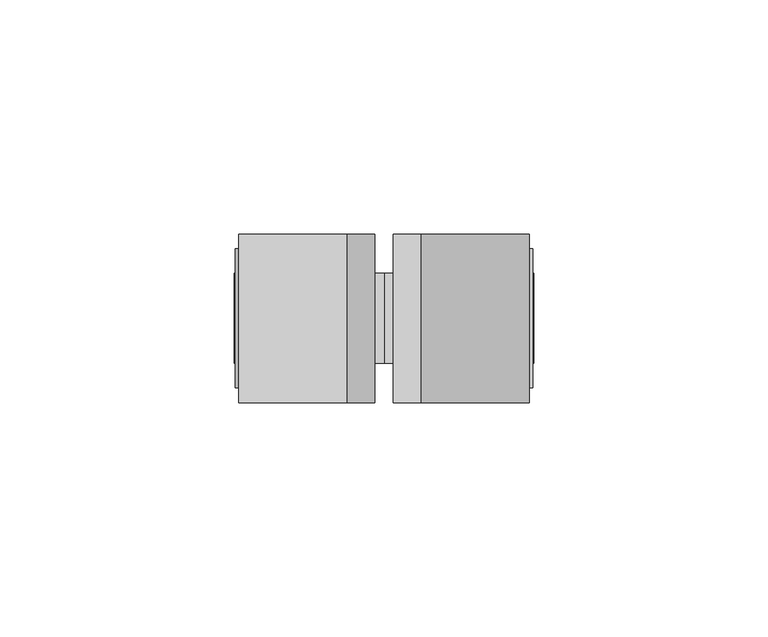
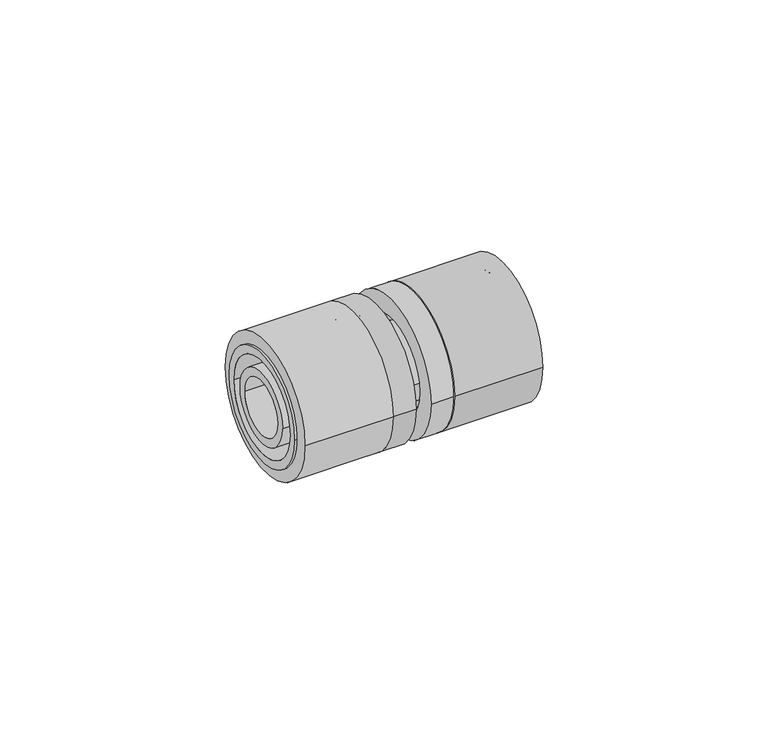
"""IFC4 building model written with IfcOpenShell, lengths in millimetres: pipe fitting geometry, FASTLOC_Coupling equal EX+ : FSL C EQ EX+ AT."""

from ifc_helpers import new_model, si_unit, point, frame, origin, origin_2d, place, context, project, spatial, polyline, circle_curve, trimmed, segment, composite_curve, outline, extrude, source, transform, mapped, element, save
from ifc_brep_helpers import plane_surface, cylinder_surface, revolved_surface, advanced_brep


def pipe_fitting_5e3c5755(model_context):
    return source(origin(), model_context, "Body", "SolidModel", [
        extrude(outline(composite_curve([segment(trimmed(circle_curve(origin_2d(), 18.0), [point((-18.0, 0.0))], [point((18.0, 0.0))], False, "CARTESIAN"), True, "CONTINUOUS"), segment(trimmed(circle_curve(origin_2d(), 18.0), [point((18.0, 0.0))], [point((-18.0, 0.0))], False, "CARTESIAN"), True, "CONTINUOUS")], self_intersect=False), holes=[composite_curve([segment(trimmed(circle_curve(origin_2d(), 13.5), [point((-13.5, 0.0))], [point((13.5, 0.0))], True, "CARTESIAN"), True, "CONTINUOUS"), segment(trimmed(circle_curve(origin_2d(), 13.5), [point((13.5, 0.0))], [point((-13.5, 0.0))], True, "CARTESIAN"), True, "CONTINUOUS")], self_intersect=False)]), frame((8.0, 0.0, 0.0), z_axis=(1.0, 0.0, 0.0), x_axis=(0.0, 1.0, 0.0)), (0.0, 0.0, 1.0), 23.0),
        advanced_brep(
        [(8.0, 18.0, 0.0), (8.0, -18.0, 0.0), (2.0, -18.0, 0.0), (2.0, 18.0, 0.0), (31.8, 14.85, 0.0), (31.8, -14.85, 0.0), (8.0, -14.85, 0.0), (8.0, 14.85, 0.0), (2.0, 12.65, 0.0), (2.0, -12.65, 0.0), (31.8, -12.65, 0.0), (31.8, 12.65, 0.0)],
        [
            (0, 1, circle_curve(frame((8.0, 0.0, 0.0), z_axis=(-1.0, 0.0, 0.0), x_axis=(0.0, -1.0, 0.0)), 18.0)),
            (1, 2),
            (2, 3, circle_curve(frame((2.0, 0.0, 0.0), z_axis=(1.0, 0.0, 0.0), x_axis=(0.0, -1.0, 0.0)), 18.0)),
            (3, 0),
            (4, 5, circle_curve(frame((31.8, 0.0, 0.0), z_axis=(-1.0, 0.0, 0.0), x_axis=(0.0, -1.0, 0.0)), 14.85)),
            (5, 6),
            (6, 7, circle_curve(frame((8.0, 0.0, 0.0), z_axis=(1.0, 0.0, 0.0), x_axis=(0.0, -1.0, 0.0)), 14.85)),
            (7, 4),
            (8, 9, circle_curve(frame((2.0, 0.0, 0.0), z_axis=(-1.0, 0.0, 0.0), x_axis=(0.0, -1.0, 0.0)), 12.65)),
            (9, 10),
            (10, 11, circle_curve(frame((31.8, 0.0, 0.0), z_axis=(1.0, 0.0, 0.0), x_axis=(0.0, -1.0, 0.0)), 12.65)),
            (11, 8),
            (1, 0, circle_curve(frame((8.0, 0.0, 0.0), z_axis=(-1.0, 0.0, 0.0), x_axis=(0.0, 1.0, 0.0)), 18.0)),
            (3, 2, circle_curve(frame((2.0, 0.0, 0.0), z_axis=(1.0, 0.0, 0.0), x_axis=(0.0, 1.0, 0.0)), 18.0)),
            (6, 7, circle_curve(frame((8.0, 0.0, 0.0), z_axis=(-1.0, 0.0, 0.0), x_axis=(0.0, 1.0, 0.0)), 14.85)),
            (5, 4, circle_curve(frame((31.8, 0.0, 0.0), z_axis=(-1.0, 0.0, 0.0), x_axis=(0.0, 1.0, 0.0)), 14.85)),
            (10, 11, circle_curve(frame((31.8, 0.0, 0.0), z_axis=(-1.0, 0.0, 0.0), x_axis=(0.0, 1.0, 0.0)), 12.65)),
            (9, 8, circle_curve(frame((2.0, 0.0, 0.0), z_axis=(-1.0, 0.0, 0.0), x_axis=(0.0, 1.0, 0.0)), 12.65)),
        ],
        [
            cylinder_surface(frame((2.0, 0.0, 0.0), z_axis=(1.0, 0.0, 0.0), x_axis=(0.0, -1.0, 0.0)), 18.0),
            cylinder_surface(frame((2.0, 0.0, 0.0), z_axis=(1.0, 0.0, 0.0), x_axis=(0.0, -1.0, 0.0)), 14.85),
            revolved_surface(polyline([(31.8, -12.65, 0.0), (2.0, -12.65, 0.0)]), (2.0, 0.0, 0.0), (1.0, 0.0, 0.0)),
            cylinder_surface(frame((2.0, 0.0, 0.0), z_axis=(1.0, 0.0, 0.0), x_axis=(0.0, 1.0, 0.0)), 18.0),
            plane_surface(frame((8.0, 0.0, 0.0), z_axis=(1.0, 0.0, 0.0), x_axis=(0.0, 1.0, 0.0))),
            cylinder_surface(frame((2.0, 0.0, 0.0), z_axis=(1.0, 0.0, 0.0), x_axis=(0.0, 1.0, 0.0)), 14.85),
            plane_surface(frame((31.8, 0.0, 0.0), z_axis=(1.0, 0.0, 0.0), x_axis=(0.0, 1.0, 0.0))),
            revolved_surface(polyline([(31.8, 12.65, 0.0), (2.0, 12.65, 0.0)]), (2.0, 0.0, 0.0), (1.0, 0.0, 0.0)),
            plane_surface(frame((2.0, 0.0, 0.0), z_axis=(-1.0, 0.0, 0.0), x_axis=(0.0, 1.0, 0.0))),
        ],
        [
            (0, [[1, 2, 3, 4]]),
            (1, [[5, 6, 7, 8]]),
            (2, [[9, 10, 11, 12]]),
            (3, [[13, -4, 14, -2]]),
            (4, [[-13, -1], [15, -7]]),
            (5, [[16, -8, -15, -6]]),
            (6, [[-16, -5], [17, -11]]),
            (7, [[18, -12, -17, -10]]),
            (8, [[-14, -3], [-18, -9]]),
        ],
    ),
        extrude(outline(composite_curve([segment(trimmed(circle_curve(origin_2d(), 18.0), [point((18.0, 0.0))], [point((-18.0, 0.0))], False, "CARTESIAN"), True, "CONTINUOUS"), segment(trimmed(circle_curve(origin_2d(), 18.0), [point((-18.0, 0.0))], [point((18.0, 0.0))], False, "CARTESIAN"), True, "CONTINUOUS")], self_intersect=False), holes=[composite_curve([segment(trimmed(circle_curve(origin_2d(), 13.5), [point((13.5, 0.0))], [point((-13.5, 0.0))], True, "CARTESIAN"), True, "CONTINUOUS"), segment(trimmed(circle_curve(origin_2d(), 13.5), [point((-13.5, 0.0))], [point((13.5, 0.0))], True, "CARTESIAN"), True, "CONTINUOUS")], self_intersect=False)]), frame((-31.0, 0.0, 0.0), z_axis=(1.0, 0.0, 0.0), x_axis=(0.0, 1.0, 0.0)), (0.0, 0.0, 1.0), 23.0),
        advanced_brep(
        [(-8.0, -18.0, 0.0), (-8.0, 18.0, 0.0), (-2.0, 18.0, 0.0), (-2.0, -18.0, 0.0), (-31.8, -14.85, 0.0), (-31.8, 14.85, 0.0), (-8.0, 14.85, 0.0), (-8.0, -14.85, 0.0), (-2.0, -12.65, 0.0), (-2.0, 12.65, 0.0), (-31.8, 12.65, 0.0), (-31.8, -12.65, 0.0)],
        [
            (0, 1, circle_curve(frame((-8.0, 0.0, 0.0), z_axis=(1.0, 0.0, 0.0), x_axis=(0.0, 1.0, 0.0)), 18.0)),
            (1, 2),
            (2, 3, circle_curve(frame((-2.0, 0.0, 0.0), z_axis=(-1.0, 0.0, 0.0), x_axis=(0.0, 1.0, 0.0)), 18.0)),
            (3, 0),
            (4, 5, circle_curve(frame((-31.8, 0.0, 0.0), z_axis=(1.0, 0.0, 0.0), x_axis=(0.0, 1.0, 0.0)), 14.85)),
            (5, 6),
            (6, 7, circle_curve(frame((-8.0, 0.0, 0.0), z_axis=(-1.0, 0.0, 0.0), x_axis=(0.0, 1.0, 0.0)), 14.85)),
            (7, 4),
            (8, 9, circle_curve(frame((-2.0, 0.0, 0.0), z_axis=(1.0, 0.0, 0.0), x_axis=(0.0, 1.0, 0.0)), 12.65)),
            (9, 10),
            (10, 11, circle_curve(frame((-31.8, 0.0, 0.0), z_axis=(-1.0, 0.0, 0.0), x_axis=(0.0, 1.0, 0.0)), 12.65)),
            (11, 8),
            (1, 0, circle_curve(frame((-8.0, 0.0, 0.0), z_axis=(1.0, 0.0, 0.0), x_axis=(0.0, -1.0, 0.0)), 18.0)),
            (3, 2, circle_curve(frame((-2.0, 0.0, 0.0), z_axis=(-1.0, 0.0, 0.0), x_axis=(0.0, -1.0, 0.0)), 18.0)),
            (6, 7, circle_curve(frame((-8.0, 0.0, 0.0), z_axis=(1.0, 0.0, 0.0), x_axis=(0.0, -1.0, 0.0)), 14.85)),
            (5, 4, circle_curve(frame((-31.8, 0.0, 0.0), z_axis=(1.0, 0.0, 0.0), x_axis=(0.0, -1.0, 0.0)), 14.85)),
            (10, 11, circle_curve(frame((-31.8, 0.0, 0.0), z_axis=(1.0, 0.0, 0.0), x_axis=(0.0, -1.0, 0.0)), 12.65)),
            (9, 8, circle_curve(frame((-2.0, 0.0, 0.0), z_axis=(1.0, 0.0, 0.0), x_axis=(0.0, -1.0, 0.0)), 12.65)),
        ],
        [
            cylinder_surface(frame((-2.0, 0.0, 0.0), z_axis=(-1.0, 0.0, 0.0), x_axis=(0.0, 1.0, 0.0)), 18.0),
            cylinder_surface(frame((-2.0, 0.0, 0.0), z_axis=(-1.0, 0.0, 0.0), x_axis=(0.0, 1.0, 0.0)), 14.85),
            revolved_surface(polyline([(-31.8, 12.65, 0.0), (-2.0, 12.65, 0.0)]), (-2.0, 0.0, 0.0), (-1.0, 0.0, 0.0)),
            cylinder_surface(frame((-2.0, 0.0, 0.0), z_axis=(-1.0, 0.0, 0.0), x_axis=(0.0, -1.0, 0.0)), 18.0),
            plane_surface(frame((-8.0, 0.0, 0.0), z_axis=(-1.0, 0.0, 0.0), x_axis=(0.0, -1.0, 0.0))),
            cylinder_surface(frame((-2.0, 0.0, 0.0), z_axis=(-1.0, 0.0, 0.0), x_axis=(0.0, -1.0, 0.0)), 14.85),
            plane_surface(frame((-31.8, 0.0, 0.0), z_axis=(-1.0, 0.0, 0.0), x_axis=(0.0, -1.0, 0.0))),
            revolved_surface(polyline([(-31.8, -12.65, 0.0), (-2.0, -12.65, 0.0)]), (-2.0, 0.0, 0.0), (-1.0, 0.0, 0.0)),
            plane_surface(frame((-2.0, 0.0, 0.0), z_axis=(1.0, 0.0, 0.0), x_axis=(0.0, -1.0, 0.0))),
        ],
        [
            (0, [[1, 2, 3, 4]]),
            (1, [[5, 6, 7, 8]]),
            (2, [[9, 10, 11, 12]]),
            (3, [[13, -4, 14, -2]]),
            (4, [[-13, -1], [15, -7]]),
            (5, [[16, -8, -15, -6]]),
            (6, [[-16, -5], [17, -11]]),
            (7, [[18, -12, -17, -10]]),
            (8, [[-14, -3], [-18, -9]]),
        ],
    ),
        advanced_brep(
        [(8.0, 11.1, 0.0), (8.0, -11.1, 0.0), (5.2, -11.1, 0.0), (5.2, 11.1, 0.0), (32.0, 9.6, 0.0), (32.0, -9.6, 0.0), (8.0, -9.6, 0.0), (8.0, 9.6, 0.0), (-32.0, 7.35, 0.0), (-32.0, -7.35, 0.0), (32.0, -7.35, 0.0), (32.0, 7.35, 0.0), (-8.0, 9.6, 0.0), (-8.0, -9.6, 0.0), (-32.0, -9.6, 0.0), (-32.0, 9.6, 0.0), (-5.2, 11.1, 0.0), (-5.2, -11.1, 0.0), (-8.0, -11.1, 0.0), (-8.0, 11.1, 0.0), (0.0, 9.6, 0.0), (0.0, -9.6, 0.0), (-5.2, -9.6, 0.0), (-5.2, 9.6, 0.0), (5.2, 9.6, 0.0), (5.2, -9.6, 0.0)],
        [
            (0, 1, circle_curve(frame((8.0, 0.0, 0.0), z_axis=(-1.0, 0.0, 0.0), x_axis=(0.0, -1.0, 0.0)), 11.1)),
            (1, 2),
            (2, 3, circle_curve(frame((5.2, 0.0, 0.0), z_axis=(1.0, 0.0, 0.0), x_axis=(0.0, -1.0, 0.0)), 11.1)),
            (3, 0),
            (4, 5, circle_curve(frame((32.0, 0.0, 0.0), z_axis=(-1.0, 0.0, 0.0), x_axis=(0.0, -1.0, 0.0)), 9.6)),
            (5, 6),
            (6, 7, circle_curve(frame((8.0, 0.0, 0.0), z_axis=(1.0, 0.0, 0.0), x_axis=(0.0, -1.0, 0.0)), 9.6)),
            (7, 4),
            (8, 9, circle_curve(frame((-32.0, 0.0, 0.0), z_axis=(-1.0, 0.0, 0.0), x_axis=(0.0, -1.0, 0.0)), 7.35)),
            (9, 10),
            (10, 11, circle_curve(frame((32.0, 0.0, 0.0), z_axis=(1.0, 0.0, 0.0), x_axis=(0.0, -1.0, 0.0)), 7.35)),
            (11, 8),
            (12, 13, circle_curve(frame((-8.0, 0.0, 0.0), z_axis=(-1.0, 0.0, 0.0), x_axis=(0.0, -1.0, 0.0)), 9.6)),
            (13, 14),
            (14, 15, circle_curve(frame((-32.0, 0.0, 0.0), z_axis=(1.0, 0.0, 0.0), x_axis=(0.0, -1.0, 0.0)), 9.6)),
            (15, 12),
            (16, 17, circle_curve(frame((-5.2, 0.0, 0.0), z_axis=(-1.0, 0.0, 0.0), x_axis=(0.0, -1.0, 0.0)), 11.1)),
            (17, 18),
            (18, 19, circle_curve(frame((-8.0, 0.0, 0.0), z_axis=(1.0, 0.0, 0.0), x_axis=(0.0, -1.0, 0.0)), 11.1)),
            (19, 16),
            (20, 21, circle_curve(frame((0.0, 0.0, 0.0), z_axis=(-1.0, 0.0, 0.0), x_axis=(0.0, -1.0, 0.0)), 9.6)),
            (21, 22),
            (22, 23, circle_curve(frame((-5.2, 0.0, 0.0), z_axis=(1.0, 0.0, 0.0), x_axis=(0.0, -1.0, 0.0)), 9.6)),
            (23, 20),
            (24, 25, circle_curve(frame((5.2, 0.0, 0.0), z_axis=(-1.0, 0.0, 0.0), x_axis=(0.0, -1.0, 0.0)), 9.6)),
            (25, 21),
            (20, 24),
            (1, 0, circle_curve(frame((8.0, 0.0, 0.0), z_axis=(-1.0, 0.0, 0.0), x_axis=(0.0, 1.0, 0.0)), 11.1)),
            (3, 2, circle_curve(frame((5.2, 0.0, 0.0), z_axis=(1.0, 0.0, 0.0), x_axis=(0.0, 1.0, 0.0)), 11.1)),
            (6, 7, circle_curve(frame((8.0, 0.0, 0.0), z_axis=(-1.0, 0.0, 0.0), x_axis=(0.0, 1.0, 0.0)), 9.6)),
            (5, 4, circle_curve(frame((32.0, 0.0, 0.0), z_axis=(-1.0, 0.0, 0.0), x_axis=(0.0, 1.0, 0.0)), 9.6)),
            (10, 11, circle_curve(frame((32.0, 0.0, 0.0), z_axis=(-1.0, 0.0, 0.0), x_axis=(0.0, 1.0, 0.0)), 7.35)),
            (9, 8, circle_curve(frame((-32.0, 0.0, 0.0), z_axis=(-1.0, 0.0, 0.0), x_axis=(0.0, 1.0, 0.0)), 7.35)),
            (14, 15, circle_curve(frame((-32.0, 0.0, 0.0), z_axis=(-1.0, 0.0, 0.0), x_axis=(0.0, 1.0, 0.0)), 9.6)),
            (13, 12, circle_curve(frame((-8.0, 0.0, 0.0), z_axis=(-1.0, 0.0, 0.0), x_axis=(0.0, 1.0, 0.0)), 9.6)),
            (18, 19, circle_curve(frame((-8.0, 0.0, 0.0), z_axis=(-1.0, 0.0, 0.0), x_axis=(0.0, 1.0, 0.0)), 11.1)),
            (17, 16, circle_curve(frame((-5.2, 0.0, 0.0), z_axis=(-1.0, 0.0, 0.0), x_axis=(0.0, 1.0, 0.0)), 11.1)),
            (22, 23, circle_curve(frame((-5.2, 0.0, 0.0), z_axis=(-1.0, 0.0, 0.0), x_axis=(0.0, 1.0, 0.0)), 9.6)),
            (21, 20, circle_curve(frame((0.0, 0.0, 0.0), z_axis=(-1.0, 0.0, 0.0), x_axis=(0.0, 1.0, 0.0)), 9.6)),
            (25, 24, circle_curve(frame((5.2, 0.0, 0.0), z_axis=(-1.0, 0.0, 0.0), x_axis=(0.0, 1.0, 0.0)), 9.6)),
        ],
        [
            cylinder_surface(frame((0.0, 0.0, 0.0), z_axis=(1.0, 0.0, 0.0), x_axis=(0.0, -1.0, 0.0)), 11.1),
            cylinder_surface(frame((0.0, 0.0, 0.0), z_axis=(1.0, 0.0, 0.0), x_axis=(0.0, -1.0, 0.0)), 9.6),
            revolved_surface(polyline([(32.0, -7.35, 0.0), (-32.0, -7.35, 0.0)]), (0.0, 0.0, 0.0), (1.0, 0.0, 0.0)),
            cylinder_surface(frame((0.0, 0.0, 0.0), z_axis=(1.0, 0.0, 0.0), x_axis=(0.0, 1.0, 0.0)), 11.1),
            plane_surface(frame((8.0, 0.0, 0.0), z_axis=(1.0, 0.0, 0.0), x_axis=(0.0, 1.0, 0.0))),
            cylinder_surface(frame((0.0, 0.0, 0.0), z_axis=(1.0, 0.0, 0.0), x_axis=(0.0, 1.0, 0.0)), 9.6),
            plane_surface(frame((32.0, 0.0, 0.0), z_axis=(1.0, 0.0, 0.0), x_axis=(0.0, 1.0, 0.0))),
            revolved_surface(polyline([(32.0, 7.35, 0.0), (-32.0, 7.35, 0.0)]), (0.0, 0.0, 0.0), (1.0, 0.0, 0.0)),
            plane_surface(frame((-32.0, 0.0, 0.0), z_axis=(-1.0, 0.0, 0.0), x_axis=(0.0, 1.0, 0.0))),
            plane_surface(frame((-8.0, 0.0, 0.0), z_axis=(-1.0, 0.0, 0.0), x_axis=(0.0, 1.0, 0.0))),
            plane_surface(frame((-5.2, 0.0, 0.0), z_axis=(1.0, 0.0, 0.0), x_axis=(0.0, 1.0, 0.0))),
            plane_surface(frame((5.2, 0.0, 0.0), z_axis=(-1.0, 0.0, 0.0), x_axis=(0.0, 1.0, 0.0))),
        ],
        [
            (0, [[1, 2, 3, 4]]),
            (1, [[5, 6, 7, 8]]),
            (2, [[9, 10, 11, 12]]),
            (1, [[13, 14, 15, 16]]),
            (0, [[17, 18, 19, 20]]),
            (1, [[21, 22, 23, 24]]),
            (1, [[25, 26, -21, 27]]),
            (3, [[28, -4, 29, -2]]),
            (4, [[-28, -1], [30, -7]]),
            (5, [[31, -8, -30, -6]]),
            (6, [[-31, -5], [32, -11]]),
            (7, [[33, -12, -32, -10]]),
            (8, [[34, -15], [-33, -9]]),
            (5, [[35, -16, -34, -14]]),
            (9, [[36, -19], [-35, -13]]),
            (3, [[37, -20, -36, -18]]),
            (10, [[-37, -17], [38, -23]]),
            (5, [[39, -24, -38, -22]]),
            (5, [[40, -27, -39, -26]]),
            (11, [[-29, -3], [-40, -25]]),
        ],
    ),
    ])


if __name__ == "__main__":
    model = new_model("IFC4")
    model_context = context("Model", 3, world=origin())
    ifc_project = project(units=[si_unit("LENGTHUNIT", "METRE", prefix="MILLI")], contexts=[model_context])
    site = spatial("IfcSite", under=ifc_project)
    building = spatial("IfcBuilding", under=site)
    placement = place(None, origin())
    pipe_fitting_shape = pipe_fitting_5e3c5755(model_context)
    element("IfcPipeFitting", 1, ObjectType="FASTLOC_Coupling equal EX+ : FSL C EQ EX+ AT", at=placement, inside=building, context=model_context, shape_type="MappedRepresentation", body=[
        mapped(pipe_fitting_shape, transform((0.0, 0.0, 0.0), x_axis=(1.0, 0.0, 0.0), y_axis=(0.0, 1.0, 0.0), z_axis=(0.0, 0.0, 1.0))),
    ])
    save(model, "model.ifc")
